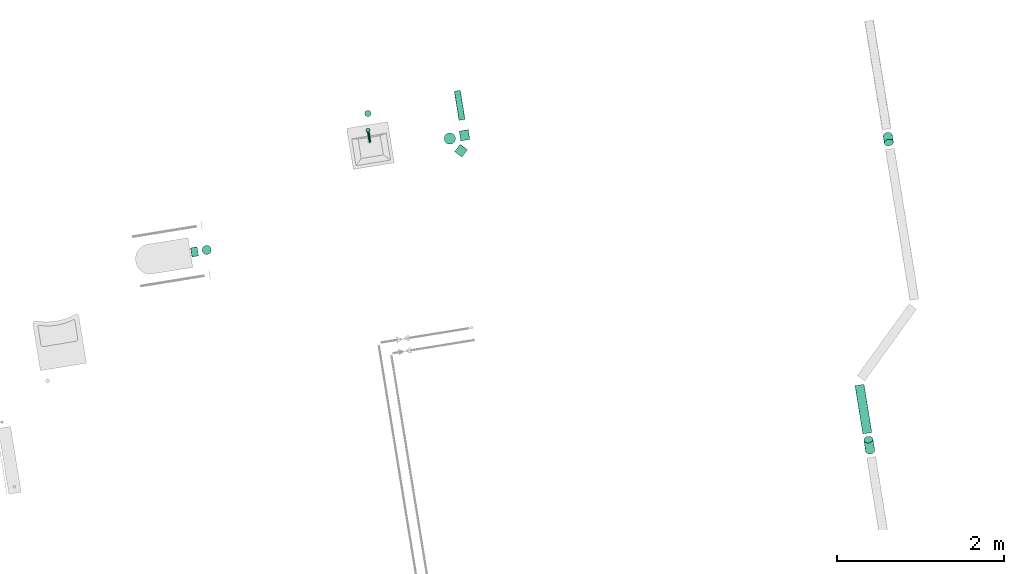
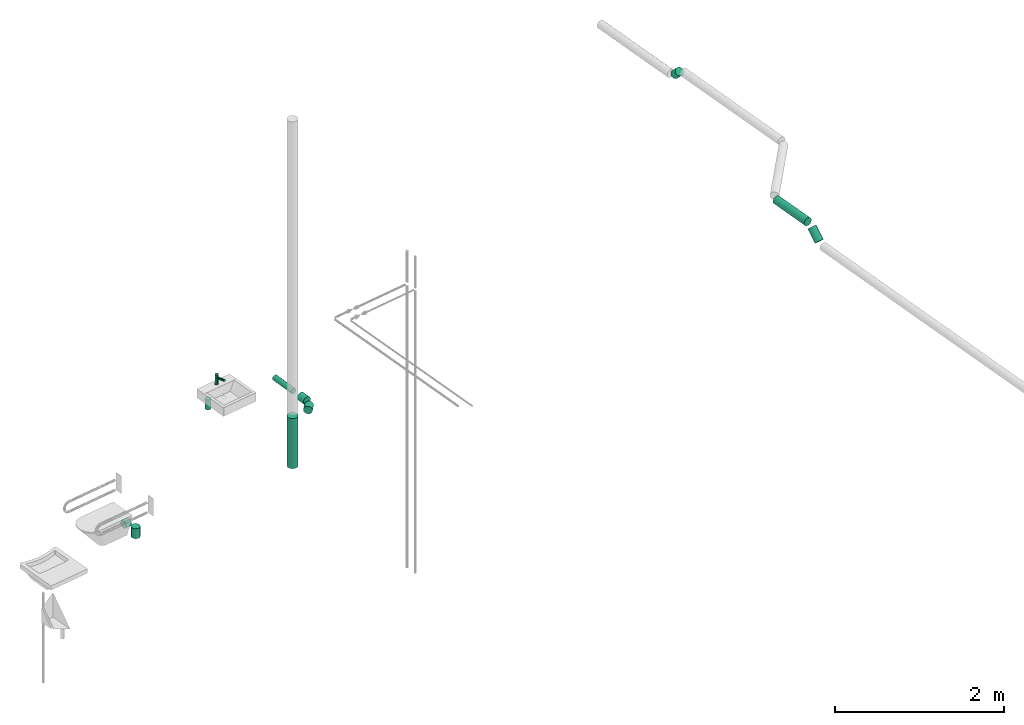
# One storey, part 6 of 10: 10 flow segments, 1 flow terminal.
"""IFC2X3 building model written with IfcOpenShell, lengths in millimetres."""

from ifc_helpers import new_model, entity, si_unit, converted_unit, derived_unit, direction, frame, frame_2d, origin, origin_with_axes, origin_2d_with_axis, place, context, subcontext, project, spatial, circle, extrude, source, transform, mapped, material, type_object, element, save


model = new_model("IFC2X3")

# Units and contexts
model_context = context("Model", 3, precision=0.01, world=origin(), true_north=direction((6.12323399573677e-17, 1.0)))
plan_context = context("Plan", 3, precision=1e-05, world=origin_with_axes())
body_context = subcontext(model_context, "Body", "Model", "MODEL_VIEW")
ifc_project = project(units=[converted_unit("PLANEANGLEUNIT", "DEGREE", entity("IfcPositiveLengthMeasure", 0.0174532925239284), si_unit("PLANEANGLEUNIT", "RADIAN"), dimensions=[0, 0, 0, 0, 0, 0, 0]), si_unit("AREAUNIT", "SQUARE_METRE"), si_unit("LENGTHUNIT", "METRE", prefix="MILLI"), si_unit("MASSUNIT", "GRAM", prefix="KILO"), si_unit("POWERUNIT", "WATT"), si_unit("PRESSUREUNIT", "PASCAL", prefix="KILO"), si_unit("FORCEUNIT", "NEWTON", prefix="KILO"), si_unit("ELECTRICVOLTAGEUNIT", "VOLT"), si_unit("ELECTRICCURRENTUNIT", "AMPERE"), si_unit("THERMODYNAMICTEMPERATUREUNIT", "DEGREE_CELSIUS"), si_unit("TIMEUNIT", "SECOND"), si_unit("VOLUMEUNIT", "CUBIC_METRE"), derived_unit("LINEARVELOCITYUNIT", [(si_unit("LENGTHUNIT", "METRE"), 1), (si_unit("TIMEUNIT", "SECOND"), -1)]), derived_unit("VOLUMETRICFLOWRATEUNIT", [(si_unit("VOLUMEUNIT", "CUBIC_METRE"), 1), (si_unit("TIMEUNIT", "SECOND"), -1)]), derived_unit("THERMALTRANSMITTANCEUNIT", [(si_unit("POWERUNIT", "WATT"), 1), (si_unit("THERMODYNAMICTEMPERATUREUNIT", "KELVIN"), -1), (si_unit("AREAUNIT", "SQUARE_METRE"), -1)]), derived_unit("SOUNDPRESSUREUNIT", [(si_unit("PRESSUREUNIT", "PASCAL"), 1)])], contexts=[model_context, plan_context])

# Site, building, storey
site_placement = place(None, frame((-0.000710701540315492, 0.00438415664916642, 0.0), z_axis=(0.0, 0.0, 1.0), x_axis=(-0.160236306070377, 0.987078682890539, 0.0)))
site = spatial("IfcSite", under=ifc_project, at=site_placement, Name="Default", CompositionType="ELEMENT")
building_placement = place(site_placement, origin_with_axes())
building = spatial("IfcBuilding", under=site, at=building_placement, CompositionType="ELEMENT")
storey_placement = place(building_placement, frame((0.0, 0.0, 50999.9999999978), z_axis=(0.0, 0.0, 1.0), x_axis=(1.0, 0.0, 0.0)))
storey = spatial("IfcBuildingStorey", under=building, at=storey_placement, Name="Nivå D", CompositionType="ELEMENT", Elevation=50999.9999999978)

# Flow terminal
ifc_material = material(Name="<Unnamed>")
distribution_element_type = type_object("IfcDistributionElementType", Name="SERVANTBATTERI -  - IN:SERVANTBATTERI -  - INKL.M.VASK", material=ifc_material)
shared_shape = source(origin(), body_context, "Body", "SweptSolid", [
    extrude(circle(Radius=15.0, at=frame_2d((0.0, -6.95890887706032e-14), x_axis=(1.0, 0.0))), frame((0.0, -147.389900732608, 125.836430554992), z_axis=(0.0, 0.984807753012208, -0.17364817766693), x_axis=(1.0, 0.0, 0.0)), (0.0, 0.0, 1.0), 143.522762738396),
    extrude(circle(Radius=22.0, at=frame_2d((0.0, -3.55419806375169e-14), x_axis=(1.0, 0.0))), frame((0.0, 0.0, 6.0)), (0.0, 0.0, 1.0), 136.0),
    extrude(circle(Radius=25.0, at=frame_2d((0.0, -4.03886143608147e-14), x_axis=(1.0, 0.0))), origin(), (0.0, 0.0, 1.0), 6.0),
])
flow_terminal_placement = place(storey_placement, frame((779677.619644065, -593832.425346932, 650.042420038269), z_axis=(0.0, 0.0, 1.0), x_axis=(0.0, -1.0, 0.0)))
element("IfcFlowTerminal", 1, at=flow_terminal_placement, inside=storey, type_object=distribution_element_type, material=ifc_material, Name="SERVANTBATTERI -  - IN:SERVANTBATTERI -  - INKL.M.VASK", ObjectType="SERVANTBATTERI -  - IN:SERVANTBATTERI -  - INKL.M.VASK", context=body_context, shape_type="MappedRepresentation", body=[
    mapped(shared_shape, transform((0.0, 0.0, 0.0), scale=1.0)),
])

# Flow segments
pipe_segment_type_1 = type_object("IfcPipeSegmentType", Name="Pipe Types:MA", PredefinedType="NOTDEFINED")
flow_segment_1_placement = place(storey_placement, origin_with_axes())
element("IfcFlowSegment", 2, at=flow_segment_1_placement, inside=storey, type_object=pipe_segment_type_1, Name="Pipe Types:MA", ObjectType="Pipe Types:MA", context=body_context, shape_type="SweptSolid", body=[
    extrude(circle(Radius=67.5, at=origin_2d_with_axis()), frame((779423.355955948, -594785.079483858, -814.331169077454)), (0.0, 0.0, 1.0), 724.081169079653),
])
flow_segment_2_placement = place(storey_placement, origin_with_axes())
element("IfcFlowSegment", 3, at=flow_segment_2_placement, inside=storey, type_object=pipe_segment_type_1, Name="Pipe Types:MA", ObjectType="Pipe Types:MA", context=body_context, shape_type="SweptSolid", body=[
    extrude(circle(Radius=55.0, at=frame_2d((0.0, -8.66173496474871e-12), x_axis=(1.0, 0.0))), frame((779374.976319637, -594965.01760477, 69.3403445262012), z_axis=(0.99986123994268, 4.83740569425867e-07, 0.0166583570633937), x_axis=(4.83807702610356e-07, -1.0, 0.0)), (0.0, 0.0, 1.0), 118.068669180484),
])
flow_segment_3_placement = place(storey_placement, origin_with_axes())
element("IfcFlowSegment", 4, at=flow_segment_3_placement, inside=storey, type_object=pipe_segment_type_1, Name="Pipe Types:MA", ObjectType="Pipe Types:MA", context=body_context, shape_type="SweptSolid", body=[
    extrude(circle(Radius=55.0, at=frame_2d((-4.90049721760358e-11, -8.16636122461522e-13), x_axis=(1.0, 0.0))), frame((779220.04683796, -594855.637937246, 66.0033505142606), z_axis=(0.707008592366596, -0.707008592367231, 0.0166643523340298), x_axis=(0.707106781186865, 0.70710678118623, 0.0)), (0.0, 0.0, 1.0), 109.151609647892),
])
flow_segment_4_placement = place(storey_placement, origin_with_axes())
element("IfcFlowSegment", 5, at=flow_segment_4_placement, inside=storey, type_object=pipe_segment_type_1, Name="Pipe Types:MA", ObjectType="Pipe Types:MA", context=body_context, shape_type="SweptSolid", body=[
    extrude(circle(Radius=37.5, at=frame_2d((-6.9303496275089e-11, 5.58547365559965e-19), x_axis=(1.0, 0.0))), frame((779621.010929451, -594965.017485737, 73.4343342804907), z_axis=(0.999861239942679, 4.83740477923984e-07, 0.016658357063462), x_axis=(-4.83807611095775e-07, 1.0, 0.0)), (0.0, 0.0, 1.0), 353.846620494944),
])
flow_segment_5_placement = place(storey_placement, origin_with_axes())
element("IfcFlowSegment", 6, at=flow_segment_5_placement, inside=storey, type_object=pipe_segment_type_1, Name="Pipe Types:MA", ObjectType="Pipe Types:MA", context=body_context, shape_type="SweptSolid", body=[
    extrude(circle(Radius=37.5, at=origin_2d_with_axis()), frame((779877.506577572, -593862.806825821, 176.039415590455), z_axis=(0.000859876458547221, 0.00430934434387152, 0.999990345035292), x_axis=(0.980667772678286, -0.195680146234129, 0.0)), (0.0, 0.0, 1.0), 142.127766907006),
])
flow_segment_6_placement = place(storey_placement, origin_with_axes())
element("IfcFlowSegment", 7, at=flow_segment_6_placement, inside=storey, type_object=pipe_segment_type_1, Name="Pipe Types:MA", ObjectType="Pipe Types:MA", context=body_context, shape_type="SweptSolid", body=[
    extrude(circle(Radius=55.0, at=origin_2d_with_axis()), frame((778572.619643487, -591584.542194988, 249.699294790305), z_axis=(0.0, 0.999861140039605, 0.016664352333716), x_axis=(-1.0, 0.0, 0.0)), (0.0, 0.0, 1.0), 79.1244584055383),
])
flow_segment_7_placement = place(storey_placement, origin_with_axes())
element("IfcFlowSegment", 8, at=flow_segment_7_placement, inside=storey, type_object=pipe_segment_type_1, Name="Pipe Types:MA", ObjectType="Pipe Types:MA", context=body_context, shape_type="SweptSolid", body=[
    extrude(circle(Radius=55.0, at=origin_2d_with_axis()), frame((778572.619644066, -591692.709116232, -5.0), z_axis=(0.0, 0.0, 1.0), x_axis=(-1.0, 0.0, 0.0)), (3.99975874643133e-09, 0.0, 1.0), 144.714569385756),
])
pipe_segment_type_2 = type_object("IfcPipeSegmentType", Name="Pipe Types:Rustfrie stålrør", PredefinedType="NOTDEFINED")
flow_segment_8_placement = place(storey_placement, origin_with_axes())
element("IfcFlowSegment", 9, at=flow_segment_8_placement, inside=storey, type_object=pipe_segment_type_2, Name="Pipe Types:Rustfrie stålrør", ObjectType="Pipe Types:Rustfrie stålrør", context=body_context, shape_type="SweptSolid", body=[
    extrude(circle(Radius=55.0000000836, at=origin_2d_with_axis()), frame((775133.310010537, -599160.779433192, 3100.0), z_axis=(1.0, 0.0, 0.0), x_axis=(0.0, 1.0, 0.0)), (0.0, 0.0, 1.0), 585.626509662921),
])
flow_segment_9_placement = place(storey_placement, origin_with_axes())
element("IfcFlowSegment", 10, at=flow_segment_9_placement, inside=storey, type_object=pipe_segment_type_2, Name="Pipe Types:Rustfrie stålrør", ObjectType="Pipe Types:Rustfrie stålrør", context=body_context, shape_type="SweptSolid", body=[
    extrude(circle(Radius=55.0000000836, at=origin_2d_with_axis()), frame((778531.786802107, -599973.692732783, 3067.78174593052), z_axis=(0.707106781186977, 0.0, -0.707106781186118), x_axis=(0.0, -1.0, 0.0)), (0.0, 0.0, 1.0), 121.00505063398),
])
flow_segment_10_placement = place(storey_placement, origin_with_axes())
element("IfcFlowSegment", 11, at=flow_segment_10_placement, inside=storey, type_object=pipe_segment_type_2, Name="Pipe Types:Rustfrie stålrør", ObjectType="Pipe Types:Rustfrie stålrør", context=body_context, shape_type="SweptSolid", body=[
    extrude(circle(Radius=55.0000000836, at=origin_2d_with_axis()), frame((774919.964772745, -599160.779433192, 2932.21825406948), z_axis=(0.707106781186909, 0.0, 0.707106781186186), x_axis=(0.0, -1.0, 0.0)), (0.0, 0.0, 1.0), 191.715728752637),
])

save(model, "model.ifc")
